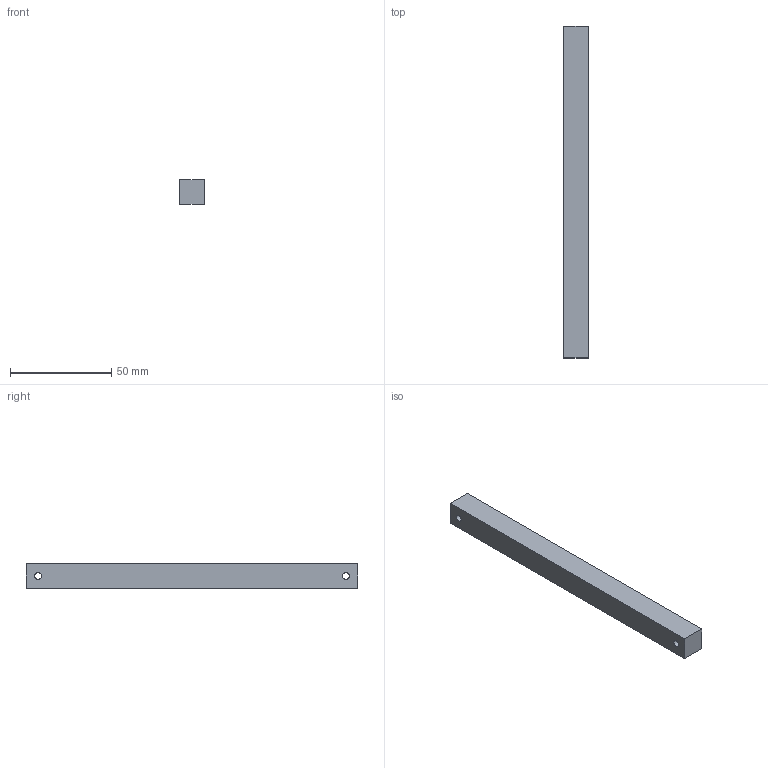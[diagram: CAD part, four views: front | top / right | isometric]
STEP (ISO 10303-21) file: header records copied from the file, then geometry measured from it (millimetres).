
FILE_DESCRIPTION(('Open CASCADE Model'),'2;1');
FILE_NAME('Open CASCADE Shape Model','2026-10-16T03:40:06',('Author'),( 'Open CASCADE'),'Open CASCADE STEP processor 7.9','Open CASCADE 7.9' ,'Unknown');
FILE_SCHEMA(('AUTOMOTIVE_DESIGN { 1 0 10303 214 1 1 1 1 }'));
Length unit declared in the file: millimetre
Products named in the file (1): Open CASCADE STEP translator 7.9 10
Bounding box: 12 x 164 x 12 mm (x, y, z)
Volume: 23398.1 mm3; surface area: 8380 mm2
Topology: 1 solids, 1 shells, 8 faces, 18 edges, 12 vertices
Faces by surface type: plane 6, cylinder 2
Full cylindrical faces by diameter (mm): 3.4 x2
Entity records: 478 total; most frequent: DIRECTION 76, CARTESIAN_POINT 75, LINE 46, VECTOR 46, ORIENTED_EDGE 36, PCURVE 36, DEFINITIONAL_REPRESENTATION 36, EDGE_CURVE 18
